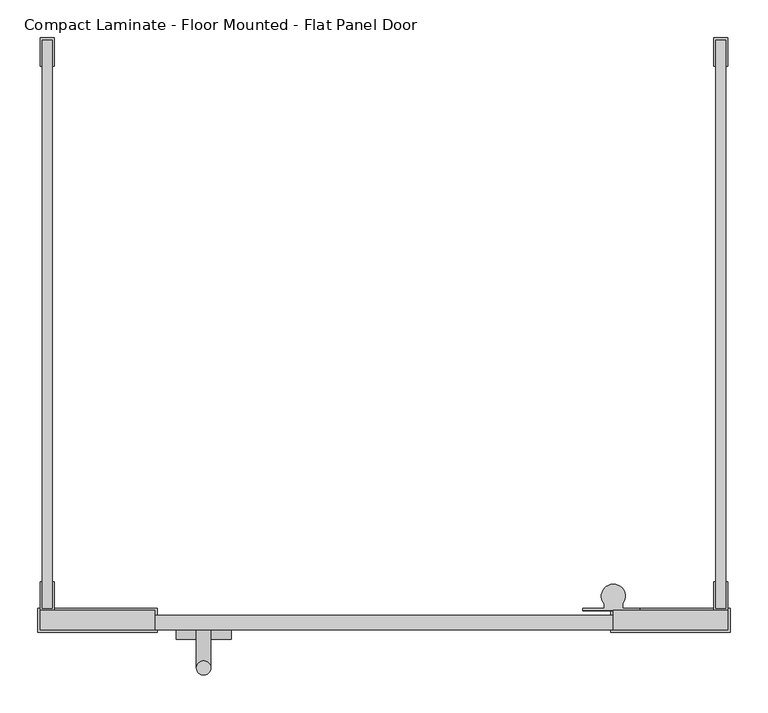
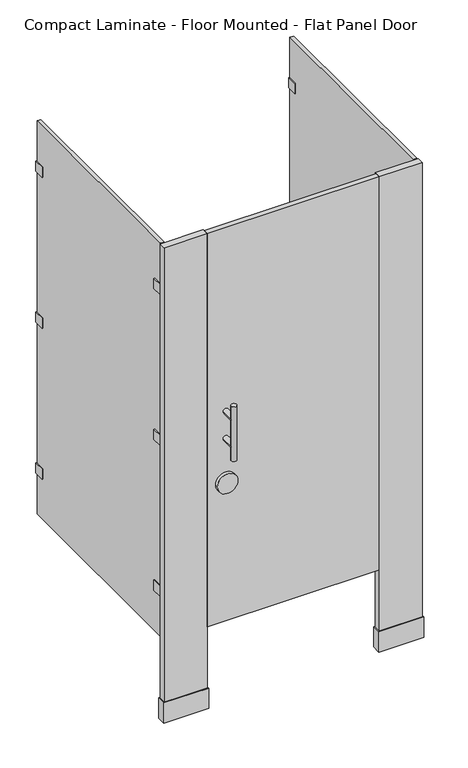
"""IFC4 building model written with IfcOpenShell, lengths in millimetres: proxy geometry, Toilet-Partition_Ironwood-Mfg_Compact-Laminate : Compact Laminate - Floor Mounted - Flat Panel Door."""

from ifc_helpers import new_model, si_unit, point, frame, frame_2d, origin, origin_with_axes, place, context, project, spatial, polyline, circle_curve, ellipse_curve, trimmed, segment, composite_curve, outline, extrude, source, transform, mapped, element, save
from ifc_brep_helpers import plane_surface, cylinder_surface, advanced_brep


def compact_laminate_floor_mounted_flat_panel_door_a3374b17(model_context):
    return source(origin(), model_context, "Body", "SolidModel", [
        extrude(outline(polyline([(701.675, -758.825), (701.675, -790.575), (542.925, -790.575), (542.925, -758.825), (701.675, -758.825)])), origin_with_axes(), (0.0, 0.0, 1.0), 76.2),
        extrude(outline(polyline([(698.5, -762.0), (698.5, -787.4), (546.1, -787.4), (546.1, -762.0), (698.5, -762.0)])), origin_with_axes(), (0.0, 0.0, 1.0), 1778.0),
        extrude(outline(polyline([(-219.075, -758.825), (-60.325, -758.825), (-60.325, -790.575), (-219.075, -790.575), (-219.075, -758.825)])), origin_with_axes(), (0.0, 0.0, 1.0), 76.2),
        extrude(outline(polyline([(-215.9, -762.0), (-63.5, -762.0), (-63.5, -787.4), (-215.9, -787.4), (-215.9, -762.0)])), origin_with_axes(), (0.0, 0.0, 1.0), 1778.0),
        extrude(outline(polyline([(546.1, -787.4), (-63.5, -787.4), (-63.5, -768.35), (546.1, -768.35), (546.1, -787.4)])), frame((0.0, 0.0, 304.8), z_axis=(0.0, 0.0, 1.0), x_axis=(1.0, 0.0, 0.0)), (0.0, 0.0, 1.0), 1473.2),
        extrude(outline(composite_curve([segment(trimmed(circle_curve(frame_2d((827.0875, 1.5875)), 36.5125), [point((827.0875, -34.925))], [point((827.0875, 38.1))], False, "CARTESIAN"), True, "CONTINUOUS"), segment(trimmed(circle_curve(frame_2d((827.0875, 1.5875)), 36.5125), [point((827.0875, 38.1))], [point((827.0875, -34.925))], False, "CARTESIAN"), True, "CONTINUOUS")], self_intersect=False)), frame((0.0, -800.1, 0.0), z_axis=(0.0, 1.0, 0.0), x_axis=(0.0, 0.0, 1.0)), (0.0, 0.0, 1.0), 12.7),
        advanced_brep(
        [(-7.9375, -787.4, 1092.2), (11.1125, -787.4, 1092.2), (-7.9375, -787.4, 990.6), (11.1125, -787.4, 990.6), (11.1125, -838.2, 1092.2), (-7.9375, -838.2, 1092.2), (11.1125, -838.2, 990.6), (-7.9375, -838.2, 990.6), (-7.9375, -838.2, 1143.0), (11.1125, -838.2, 1143.0), (-7.9375, -838.2, 939.8), (11.1125, -838.2, 939.8)],
        [
            (0, 1, circle_curve(frame((1.5875, -787.4, 1092.2), z_axis=(0.0, 1.0, 0.0), x_axis=(1.0, 0.0, 0.0)), 9.525)),
            (1, 0, circle_curve(frame((1.5875, -787.4, 1092.2), z_axis=(0.0, 1.0, 0.0), x_axis=(1.0, 0.0, 0.0)), 9.525)),
            (2, 3, circle_curve(frame((1.5875, -787.4, 990.6), z_axis=(0.0, 1.0, 0.0), x_axis=(1.0, 0.0, 0.0)), 9.525)),
            (3, 2, circle_curve(frame((1.5875, -787.4, 990.6), z_axis=(0.0, 1.0, 0.0), x_axis=(1.0, 0.0, 0.0)), 9.525)),
            (1, 4),
            (4, 5, ellipse_curve(frame((1.5875, -838.2, 1092.2), z_axis=(0.0, 0.7071067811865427, 0.7071067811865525), x_axis=(0.0, -0.7071067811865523, 0.7071067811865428)), 13.4703842, 9.525)),
            (5, 0),
            (5, 4, ellipse_curve(frame((1.5875, -838.2, 1092.2), z_axis=(0.0, 0.7071067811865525, -0.7071067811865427), x_axis=(0.0, -0.7071067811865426, -0.7071067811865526)), 13.4703842, 9.525)),
            (3, 6),
            (6, 7, ellipse_curve(frame((1.5875, -838.2, 990.6), z_axis=(0.0, 0.7071067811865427, 0.7071067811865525), x_axis=(0.0, -0.7071067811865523, 0.7071067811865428)), 13.4703842, 9.525)),
            (7, 2),
            (7, 6, ellipse_curve(frame((1.5875, -838.2, 990.6), z_axis=(0.0, 0.7071067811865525, -0.7071067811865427), x_axis=(0.0, -0.7071067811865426, -0.7071067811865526)), 13.4703842, 9.525)),
            (8, 9, circle_curve(frame((1.5875, -838.2, 1143.0), z_axis=(0.0, 0.0, 1.0), x_axis=(1.0, 0.0, 0.0)), 9.525)),
            (9, 8, circle_curve(frame((1.5875, -838.2, 1143.0), z_axis=(0.0, 0.0, 1.0), x_axis=(1.0, 0.0, 0.0)), 9.525)),
            (10, 11, circle_curve(frame((1.5875, -838.2, 939.8), z_axis=(0.0, 0.0, -1.0), x_axis=(1.0, 0.0, 0.0)), 9.525)),
            (11, 10, circle_curve(frame((1.5875, -838.2, 939.8), z_axis=(0.0, 0.0, -1.0), x_axis=(1.0, 0.0, 0.0)), 9.525)),
            (8, 5),
            (5, 7),
            (7, 10),
            (11, 6),
            (6, 4),
            (4, 9),
        ],
        [
            plane_surface(frame((11.1125, -787.4, 1092.2), z_axis=(0.0, 1.0, 0.0), x_axis=(0.0, 0.0, -1.0))),
            cylinder_surface(frame((1.5875, -787.4, 1092.2), z_axis=(0.0, -1.0, 0.0), x_axis=(1.0, 0.0, 0.0)), 9.525),
            cylinder_surface(frame((1.5875, -787.4, 990.6), z_axis=(0.0, -1.0, 0.0), x_axis=(1.0, 0.0, 0.0)), 9.525),
            plane_surface(frame((11.1125, -838.2, 1143.0), z_axis=(0.0, 0.0, 1.0), x_axis=(0.0, 1.0, 0.0))),
            plane_surface(frame((11.1125, -838.2, 939.8), z_axis=(0.0, 0.0, -1.0), x_axis=(0.0, -1.0, 0.0))),
            cylinder_surface(frame((1.5875, -838.2, 939.8), z_axis=(0.0, 0.0, 1.0), x_axis=(1.0, 0.0, 0.0)), 9.525),
        ],
        [
            (0, [[1, 2]]),
            (0, [[3, 4]]),
            (1, [[-2, 5, 6, 7]]),
            (1, [[-1, -7, 8, -5]]),
            (2, [[-4, 9, 10, 11]]),
            (2, [[-3, -11, 12, -9]]),
            (3, [[13, 14]]),
            (4, [[15, 16]]),
            (5, [[-13, 17, 18, 19, -16, 20, 21, 22]]),
            (5, [[-14, -22, -8, -17]]),
            (5, [[-15, -19, -10, -20]]),
            (5, [[-18, -6, -21, -12]]),
        ],
    ),
        extrude(outline(composite_curve([segment(polyline([(581.3737081, -762.0), (505.1737081, -762.0), (505.1737081, -758.825), (533.7487081, -758.825), (533.7487081, -752.9581331)]), True, "CONTINUOUS"), segment(trimmed(circle_curve(frame_2d((546.1, -742.8902139)), 15.9347861), [point((533.7487081, -752.9581331))], [point((558.4512919, -752.9581331))], False, "CARTESIAN"), True, "CONTINUOUS"), segment(polyline([(558.4512919, -752.9581331), (558.4512919, -758.825), (581.3737081, -758.825), (581.3737081, -762.0)]), True, "CONTINUOUS")], self_intersect=False)), frame((0.0, 0.0, 1574.8), z_axis=(0.0, 0.0, 1.0), x_axis=(1.0, 0.0, 0.0)), (0.0, 0.0, 1.0), 63.5),
        extrude(outline(composite_curve([segment(polyline([(581.3737081, -762.0), (505.1737081, -762.0), (505.1737081, -758.825), (533.7487081, -758.825), (533.7487081, -752.9581331)]), True, "CONTINUOUS"), segment(trimmed(circle_curve(frame_2d((546.1, -742.8902139)), 15.9347861), [point((533.7487081, -752.9581331))], [point((558.4512919, -752.9581331))], False, "CARTESIAN"), True, "CONTINUOUS"), segment(polyline([(558.4512919, -752.9581331), (558.4512919, -758.825), (581.3737081, -758.825), (581.3737081, -762.0)]), True, "CONTINUOUS")], self_intersect=False)), frame((0.0, 0.0, 1009.6500001), z_axis=(0.0, 0.0, 1.0), x_axis=(1.0, 0.0, 0.0)), (0.0, 0.0, 1.0), 63.5),
        extrude(outline(composite_curve([segment(polyline([(581.3737081, -762.0), (505.1737081, -762.0), (505.1737081, -758.825), (533.7487081, -758.825), (533.7487081, -752.9581331)]), True, "CONTINUOUS"), segment(trimmed(circle_curve(frame_2d((546.1, -742.8902139)), 15.9347861), [point((533.7487081, -752.9581331))], [point((558.4512919, -752.9581331))], False, "CARTESIAN"), True, "CONTINUOUS"), segment(polyline([(558.4512919, -752.9581331), (558.4512919, -758.825), (581.3737081, -758.825), (581.3737081, -762.0)]), True, "CONTINUOUS")], self_intersect=False)), frame((0.0, 0.0, 444.5), z_axis=(0.0, 0.0, 1.0), x_axis=(1.0, 0.0, 0.0)), (0.0, 0.0, 1.0), 63.5),
        extrude(outline(polyline([(682.498, -723.9), (682.498, -758.825), (695.198, -758.825), (695.198, -723.9), (698.373, -723.9), (698.373, -762.0), (679.323, -762.0), (679.323, -723.9), (682.498, -723.9)])), frame((0.0, 0.0, 1587.8188137), z_axis=(0.0, 0.0, 1.0), x_axis=(1.0, 0.0, 0.0)), (0.0, 0.0, 1.0), 38.1),
        extrude(outline(polyline([(682.498, -38.1), (679.323, -38.1), (679.323, 0.0), (698.373, 0.0), (698.373, -38.1), (695.198, -38.1), (695.198, -3.175), (682.498, -3.175), (682.498, -38.1)])), frame((0.0, 0.0, 1587.8188137), z_axis=(0.0, 0.0, 1.0), x_axis=(1.0, 0.0, 0.0)), (0.0, 0.0, 1.0), 38.1),
        extrude(outline(polyline([(682.498, -723.9), (682.498, -758.825), (695.198, -758.825), (695.198, -723.9), (698.373, -723.9), (698.373, -762.0), (679.323, -762.0), (679.323, -723.9), (682.498, -723.9)])), frame((0.0, 0.0, 1022.35), z_axis=(0.0, 0.0, 1.0), x_axis=(1.0, 0.0, 0.0)), (0.0, 0.0, 1.0), 38.1),
        extrude(outline(polyline([(682.498, -38.1), (679.323, -38.1), (679.323, 0.0), (698.373, 0.0), (698.373, -38.1), (695.198, -38.1), (695.198, -3.175), (682.498, -3.175), (682.498, -38.1)])), frame((0.0, 0.0, 1022.35), z_axis=(0.0, 0.0, 1.0), x_axis=(1.0, 0.0, 0.0)), (0.0, 0.0, 1.0), 38.1),
        extrude(outline(polyline([(682.498, -723.9), (682.498, -758.825), (695.198, -758.825), (695.198, -723.9), (698.373, -723.9), (698.373, -762.0), (679.323, -762.0), (679.323, -723.9), (682.498, -723.9)])), frame((0.0, 0.0, 457.2), z_axis=(0.0, 0.0, 1.0), x_axis=(1.0, 0.0, 0.0)), (0.0, 0.0, 1.0), 38.1),
        extrude(outline(polyline([(682.498, -38.1), (679.323, -38.1), (679.323, 0.0), (698.373, 0.0), (698.373, -38.1), (695.198, -38.1), (695.198, -3.175), (682.498, -3.175), (682.498, -38.1)])), frame((0.0, 0.0, 457.2), z_axis=(0.0, 0.0, 1.0), x_axis=(1.0, 0.0, 0.0)), (0.0, 0.0, 1.0), 38.1),
        extrude(outline(polyline([(-212.598, -723.9), (-212.598, -758.825), (-199.898, -758.825), (-199.898, -723.9), (-196.723, -723.9), (-196.723, -762.0), (-215.773, -762.0), (-215.773, -723.9), (-212.598, -723.9)])), frame((0.0, 0.0, 1587.8188137), z_axis=(0.0, 0.0, 1.0), x_axis=(1.0, 0.0, 0.0)), (0.0, 0.0, 1.0), 38.1),
        extrude(outline(polyline([(-212.598, -38.1), (-215.773, -38.1), (-215.773, 0.0), (-196.723, 0.0), (-196.723, -38.1), (-199.898, -38.1), (-199.898, -3.175), (-212.598, -3.175), (-212.598, -38.1)])), frame((0.0, 0.0, 1587.8188137), z_axis=(0.0, 0.0, 1.0), x_axis=(1.0, 0.0, 0.0)), (0.0, 0.0, 1.0), 38.1),
        extrude(outline(polyline([(-212.598, -723.9), (-212.598, -758.825), (-199.898, -758.825), (-199.898, -723.9), (-196.723, -723.9), (-196.723, -762.0), (-215.773, -762.0), (-215.773, -723.9), (-212.598, -723.9)])), frame((0.0, 0.0, 1022.35), z_axis=(0.0, 0.0, 1.0), x_axis=(1.0, 0.0, 0.0)), (0.0, 0.0, 1.0), 38.1),
        extrude(outline(polyline([(-212.598, -38.1), (-215.773, -38.1), (-215.773, 0.0), (-196.723, 0.0), (-196.723, -38.1), (-199.898, -38.1), (-199.898, -3.175), (-212.598, -3.175), (-212.598, -38.1)])), frame((0.0, 0.0, 1022.35), z_axis=(0.0, 0.0, 1.0), x_axis=(1.0, 0.0, 0.0)), (0.0, 0.0, 1.0), 38.1),
        extrude(outline(polyline([(-212.598, -723.9), (-212.598, -758.825), (-199.898, -758.825), (-199.898, -723.9), (-196.723, -723.9), (-196.723, -762.0), (-215.773, -762.0), (-215.773, -723.9), (-212.598, -723.9)])), frame((0.0, 0.0, 457.2), z_axis=(0.0, 0.0, 1.0), x_axis=(1.0, 0.0, 0.0)), (0.0, 0.0, 1.0), 38.1),
        extrude(outline(polyline([(-212.598, -38.1), (-215.773, -38.1), (-215.773, 0.0), (-196.723, 0.0), (-196.723, -38.1), (-199.898, -38.1), (-199.898, -3.175), (-212.598, -3.175), (-212.598, -38.1)])), frame((0.0, 0.0, 457.2), z_axis=(0.0, 0.0, 1.0), x_axis=(1.0, 0.0, 0.0)), (0.0, 0.0, 1.0), 38.1),
        extrude(outline(polyline([(-199.898, -3.175), (-199.898, -758.825), (-212.598, -758.825), (-212.598, -3.175), (-199.898, -3.175)])), frame((0.0, 0.0, 304.8), z_axis=(0.0, 0.0, 1.0), x_axis=(1.0, 0.0, 0.0)), (0.0, 0.0, 1.0), 1473.2),
        extrude(outline(polyline([(695.198, -3.175), (695.198, -758.825), (682.498, -758.825), (682.498, -3.175), (695.198, -3.175)])), frame((0.0, 0.0, 304.8), z_axis=(0.0, 0.0, 1.0), x_axis=(1.0, 0.0, 0.0)), (0.0, 0.0, 1.0), 1473.2),
    ])


if __name__ == "__main__":
    model = new_model("IFC4")
    model_context = context("Model", 3, world=origin())
    ifc_project = project(units=[si_unit("LENGTHUNIT", "METRE", prefix="MILLI")], contexts=[model_context])
    site = spatial("IfcSite", under=ifc_project)
    building = spatial("IfcBuilding", under=site)
    placement = place(None, origin())
    compact_laminate_floor_mounted_flat_panel_door_shape = compact_laminate_floor_mounted_flat_panel_door_a3374b17(model_context)
    element("IfcBuildingElementProxy", 1, Name="Toilet-Partition_Ironwood-Mfg_Compact-Laminate : Compact Laminate - Floor Mounted - Flat Panel Door", ObjectType="Toilet-Partition_Ironwood-Mfg_Compact-Laminate : Compact Laminate - Floor Mounted - Flat Panel Door", at=placement, inside=building, context=model_context, shape_type="MappedRepresentation", body=[
        mapped(compact_laminate_floor_mounted_flat_panel_door_shape, transform((0.0, 0.0, 0.0), x_axis=(1.0, 0.0, 0.0), y_axis=(0.0, 1.0, 0.0), z_axis=(0.0, 0.0, 1.0))),
    ])
    save(model, "model.ifc")
